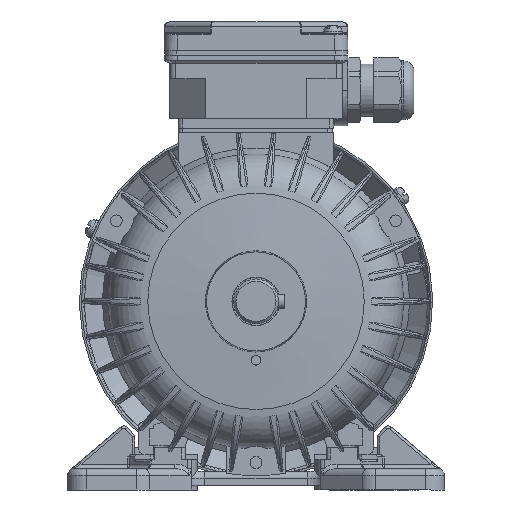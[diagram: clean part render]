
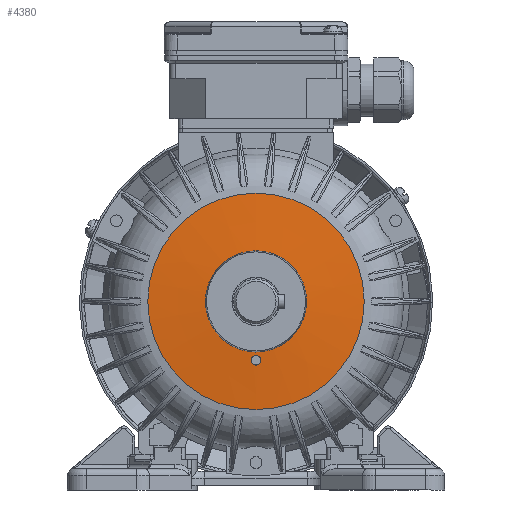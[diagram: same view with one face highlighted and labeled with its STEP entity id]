
A CAD part, left-side view. The second image highlights one B-rep face of the part: STEP entity #4380.
In plain terms, the highlighted conical face has half-angle 85.5 degrees and reference radius 21.472 mm.
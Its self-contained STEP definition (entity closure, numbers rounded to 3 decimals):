
#4380 = ADVANCED_FACE( '', ( #10734, #10735, #10736 ), #10737, .T. );
#10734 = FACE_OUTER_BOUND( '', #23611, .T. );
#10735 = FACE_BOUND( '', #23612, .T. );
#10736 = FACE_BOUND( '', #23613, .T. );
#10737 = CONICAL_SURFACE( '', #23614, 21.472, 1.492 );
#23611 = EDGE_LOOP( '', ( #60820 ) );
#23612 = EDGE_LOOP( '', ( #60821 ) );
#23613 = EDGE_LOOP( '', ( #60822 ) );
#23614 = AXIS2_PLACEMENT_3D( '', #60823, #60824, #60825 );
#60820 = ORIENTED_EDGE( '', *, *, #84933, .T. );
#60821 = ORIENTED_EDGE( '', *, *, #84934, .F. );
#60822 = ORIENTED_EDGE( '', *, *, #84935, .T. );
#60823 = CARTESIAN_POINT( '', ( 0., 6., 0. ) );
#60824 = DIRECTION( '', ( 0., 1., 0. ) );
#60825 = DIRECTION( '', ( 0., 0., 1. ) );
#84933 = EDGE_CURVE( '', #97077, #97077, #97078, .T. );
#84934 = EDGE_CURVE( '', #97079, #97079, #97080, .T. );
#84935 = EDGE_CURVE( '', #97081, #97081, #97082, .T. );
#97077 = VERTEX_POINT( '', #123047 );
#97078 = CIRCLE( '', #123048, 45.912 );
#97079 = VERTEX_POINT( '', #123049 );
#97080 = CIRCLE( '', #123050, 21.472 );
#97081 = VERTEX_POINT( '', #123051 );
#97082 = B_SPLINE_CURVE_WITH_KNOTS( '', 3, ( #123052, #123053, #123054, #123055, #123056, #123057, #123058, #123059, #123060, #123061, #123062, #123063, #123064, #123065, #123066, #123067, #123068, #123069, #123070, #123071, #123072, #123073, #123074, #123075, #123076, #123077, #123078, #123079, #123080, #123081, #123082, #123083, #123084, #123085, #123086, #123087, #123088, #123089, #123090, #123091, #123092, #123093, #123094, #123095, #123096, #123097, #123098, #123099, #123100, #123101, #123102, #123103, #123104, #123105, #123106, #123107 ), .UNSPECIFIED., .T., .F., ( 2, 2, 2, 2, 2, 2, 2, 2, 2, 2, 2, 2, 2, 2, 2, 2, 2, 2, 2, 2, 2, 2, 2, 2, 2, 2, 2, 2, 2, 2 ), ( -0.001, 0., 0., 0.001, 0.001, 0.002, 0.002, 0.003, 0.004, 0.004, 0.004, 0.005, 0.005, 0.005, 0.006, 0.006, 0.007, 0.007, 0.008, 0.008, 0.009, 0.009, 0.009, 0.01, 0.011, 0.011, 0.011, 0.012, 0.013, 0.013 ), .UNSPECIFIED. );
#123047 = CARTESIAN_POINT( '', ( 0., 7.923, -45.912 ) );
#123048 = AXIS2_PLACEMENT_3D( '', #157568, #157569, #157570 );
#123049 = CARTESIAN_POINT( '', ( 0., 6., -21.472 ) );
#123050 = AXIS2_PLACEMENT_3D( '', #157571, #157572, #157573 );
#123051 = CARTESIAN_POINT( '', ( -1.41, 6.392, -26.418 ) );
#123052 = CARTESIAN_POINT( '', ( -1.223, 6.406, -26.605 ) );
#123053 = CARTESIAN_POINT( '', ( -1.504, 6.385, -26.325 ) );
#123054 = CARTESIAN_POINT( '', ( -1.587, 6.378, -26.224 ) );
#123055 = CARTESIAN_POINT( '', ( -1.732, 6.362, -26.008 ) );
#123056 = CARTESIAN_POINT( '', ( -1.795, 6.353, -25.891 ) );
#123057 = CARTESIAN_POINT( '', ( -1.896, 6.334, -25.65 ) );
#123058 = CARTESIAN_POINT( '', ( -1.934, 6.325, -25.525 ) );
#123059 = CARTESIAN_POINT( '', ( -1.986, 6.305, -25.269 ) );
#123060 = CARTESIAN_POINT( '', ( -2., 6.295, -25.137 ) );
#123061 = CARTESIAN_POINT( '', ( -2.001, 6.264, -24.746 ) );
#123062 = CARTESIAN_POINT( '', ( -1.95, 6.243, -24.483 ) );
#123063 = CARTESIAN_POINT( '', ( -1.752, 6.204, -24.002 ) );
#123064 = CARTESIAN_POINT( '', ( -1.605, 6.186, -23.778 ) );
#123065 = CARTESIAN_POINT( '', ( -1.329, 6.163, -23.5 ) );
#123066 = CARTESIAN_POINT( '', ( -1.227, 6.155, -23.415 ) );
#123067 = CARTESIAN_POINT( '', ( -1.01, 6.143, -23.269 ) );
#123068 = CARTESIAN_POINT( '', ( -0.895, 6.138, -23.207 ) );
#123069 = CARTESIAN_POINT( '', ( -0.654, 6.129, -23.105 ) );
#123070 = CARTESIAN_POINT( '', ( -0.526, 6.126, -23.066 ) );
#123071 = CARTESIAN_POINT( '', ( -0.271, 6.121, -23.014 ) );
#123072 = CARTESIAN_POINT( '', ( -0.141, 6.12, -23.001 ) );
#123073 = CARTESIAN_POINT( '', ( 0.124, 6.12, -22.999 ) );
#123074 = CARTESIAN_POINT( '', ( 0.254, 6.121, -23.012 ) );
#123075 = CARTESIAN_POINT( '', ( 0.51, 6.126, -23.062 ) );
#123076 = CARTESIAN_POINT( '', ( 0.638, 6.129, -23.1 ) );
#123077 = CARTESIAN_POINT( '', ( 0.881, 6.137, -23.199 ) );
#123078 = CARTESIAN_POINT( '', ( 0.996, 6.142, -23.261 ) );
#123079 = CARTESIAN_POINT( '', ( 1.214, 6.155, -23.405 ) );
#123080 = CARTESIAN_POINT( '', ( 1.317, 6.162, -23.489 ) );
#123081 = CARTESIAN_POINT( '', ( 1.502, 6.177, -23.673 ) );
#123082 = CARTESIAN_POINT( '', ( 1.585, 6.185, -23.773 ) );
#123083 = CARTESIAN_POINT( '', ( 1.732, 6.203, -23.991 ) );
#123084 = CARTESIAN_POINT( '', ( 1.795, 6.213, -24.107 ) );
#123085 = CARTESIAN_POINT( '', ( 1.945, 6.242, -24.468 ) );
#123086 = CARTESIAN_POINT( '', ( 1.999, 6.263, -24.73 ) );
#123087 = CARTESIAN_POINT( '', ( 2.001, 6.293, -25.121 ) );
#123088 = CARTESIAN_POINT( '', ( 1.988, 6.304, -25.253 ) );
#123089 = CARTESIAN_POINT( '', ( 1.938, 6.324, -25.509 ) );
#123090 = CARTESIAN_POINT( '', ( 1.901, 6.333, -25.634 ) );
#123091 = CARTESIAN_POINT( '', ( 1.803, 6.352, -25.876 ) );
#123092 = CARTESIAN_POINT( '', ( 1.74, 6.36, -25.994 ) );
#123093 = CARTESIAN_POINT( '', ( 1.597, 6.377, -26.211 ) );
#123094 = CARTESIAN_POINT( '', ( 1.515, 6.384, -26.313 ) );
#123095 = CARTESIAN_POINT( '', ( 1.237, 6.405, -26.594 ) );
#123096 = CARTESIAN_POINT( '', ( 1.017, 6.416, -26.742 ) );
#123097 = CARTESIAN_POINT( '', ( 0.653, 6.427, -26.895 ) );
#123098 = CARTESIAN_POINT( '', ( 0.529, 6.43, -26.933 ) );
#123099 = CARTESIAN_POINT( '', ( 0.272, 6.434, -26.986 ) );
#123100 = CARTESIAN_POINT( '', ( 0.14, 6.435, -26.999 ) );
#123101 = CARTESIAN_POINT( '', ( -0.122, 6.435, -27.001 ) );
#123102 = CARTESIAN_POINT( '', ( -0.252, 6.434, -26.988 ) );
#123103 = CARTESIAN_POINT( '', ( -0.51, 6.431, -26.938 ) );
#123104 = CARTESIAN_POINT( '', ( -0.637, 6.428, -26.9 ) );
#123105 = CARTESIAN_POINT( '', ( -0.999, 6.417, -26.752 ) );
#123106 = CARTESIAN_POINT( '', ( -1.223, 6.406, -26.605 ) );
#123107 = CARTESIAN_POINT( '', ( -1.504, 6.385, -26.325 ) );
#157568 = CARTESIAN_POINT( '', ( 0., 7.923, 0. ) );
#157569 = DIRECTION( '', ( 0., -1., 0. ) );
#157570 = DIRECTION( '', ( 0., 0., -1. ) );
#157571 = CARTESIAN_POINT( '', ( 0., 6., 0. ) );
#157572 = DIRECTION( '', ( 0., -1., 0. ) );
#157573 = DIRECTION( '', ( 0., 0., -1. ) );
